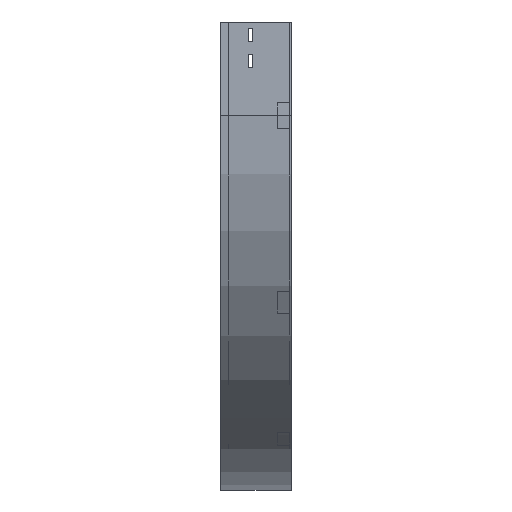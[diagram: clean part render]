
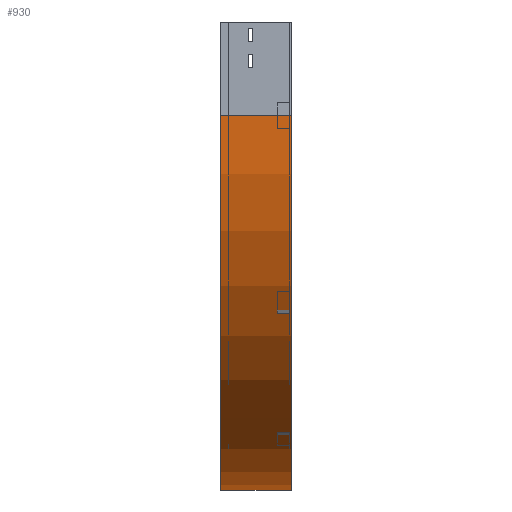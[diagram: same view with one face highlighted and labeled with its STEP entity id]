
A CAD part, left-side view. The second image highlights one B-rep face of the part: STEP entity #930.
In plain terms, the highlighted cylindrical face has radius 600 mm (diameter 1200 mm), a partial arc.
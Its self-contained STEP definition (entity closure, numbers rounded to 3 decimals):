
#72 = ORIENTED_EDGE ( 'NONE', *, *, #2518, .F. ) ;
#94 = ORIENTED_EDGE ( 'NONE', *, *, #2111, .T. ) ;
#222 = CARTESIAN_POINT ( 'NONE',  ( 0., 0., -150. ) ) ;
#253 = AXIS2_PLACEMENT_3D ( 'NONE', #3849, #552, #1738 ) ;
#279 = DIRECTION ( 'NONE',  ( 0., -1., 0. ) ) ;
#534 = LINE ( 'NONE', #222, #1438 ) ;
#552 = DIRECTION ( 'NONE',  ( 0., -1., 0. ) ) ;
#612 = EDGE_CURVE ( 'NONE', #1415, #736, #1403, .T. ) ;
#736 = VERTEX_POINT ( 'NONE', #873 ) ;
#806 = FACE_OUTER_BOUND ( 'NONE', #1852, .T. ) ;
#873 = CARTESIAN_POINT ( 'NONE',  ( 600., 0., -750. ) ) ;
#930 = ADVANCED_FACE ( 'NONE', ( #806 ), #1973, .T. ) ;
#1403 = LINE ( 'NONE', #3780, #3619 ) ;
#1415 = VERTEX_POINT ( 'NONE', #1830 ) ;
#1438 = VECTOR ( 'NONE', #279, 1000. ) ;
#1440 = DIRECTION ( 'NONE',  ( 0., -1., 0. ) ) ;
#1461 = CARTESIAN_POINT ( 'NONE',  ( 0., 112.5, -150. ) ) ;
#1678 = CIRCLE ( 'NONE', #253, 600. ) ;
#1738 = DIRECTION ( 'NONE',  ( -1., 0., 0. ) ) ;
#1830 = CARTESIAN_POINT ( 'NONE',  ( 600., 112.5, -750. ) ) ;
#1852 = EDGE_LOOP ( 'NONE', ( #72, #2710, #94, #3249 ) ) ;
#1973 = CYLINDRICAL_SURFACE ( 'NONE', #2992, 600. ) ;
#2034 = DIRECTION ( 'NONE',  ( -1., 0., 0. ) ) ;
#2111 = EDGE_CURVE ( 'NONE', #3713, #1415, #2233, .T. ) ;
#2233 = CIRCLE ( 'NONE', #3493, 600. ) ;
#2292 = CARTESIAN_POINT ( 'NONE',  ( 0., 0., -150. ) ) ;
#2439 = EDGE_CURVE ( 'NONE', #3713, #2953, #534, .T. ) ;
#2518 = EDGE_CURVE ( 'NONE', #2953, #736, #1678, .T. ) ;
#2710 = ORIENTED_EDGE ( 'NONE', *, *, #2439, .F. ) ;
#2953 = VERTEX_POINT ( 'NONE', #2292 ) ;
#2992 = AXIS2_PLACEMENT_3D ( 'NONE', #3777, #3158, #3755 ) ;
#3158 = DIRECTION ( 'NONE',  ( 0., -1., 0. ) ) ;
#3164 = CARTESIAN_POINT ( 'NONE',  ( 600., 112.5, -150. ) ) ;
#3249 = ORIENTED_EDGE ( 'NONE', *, *, #612, .T. ) ;
#3493 = AXIS2_PLACEMENT_3D ( 'NONE', #3164, #3736, #2034 ) ;
#3619 = VECTOR ( 'NONE', #1440, 1000. ) ;
#3713 = VERTEX_POINT ( 'NONE', #1461 ) ;
#3736 = DIRECTION ( 'NONE',  ( 0., -1., 0. ) ) ;
#3755 = DIRECTION ( 'NONE',  ( 0., 0., -1. ) ) ;
#3777 = CARTESIAN_POINT ( 'NONE',  ( 600., 0., -150. ) ) ;
#3780 = CARTESIAN_POINT ( 'NONE',  ( 600., 0., -750. ) ) ;
#3849 = CARTESIAN_POINT ( 'NONE',  ( 600., 0., -150. ) ) ;
